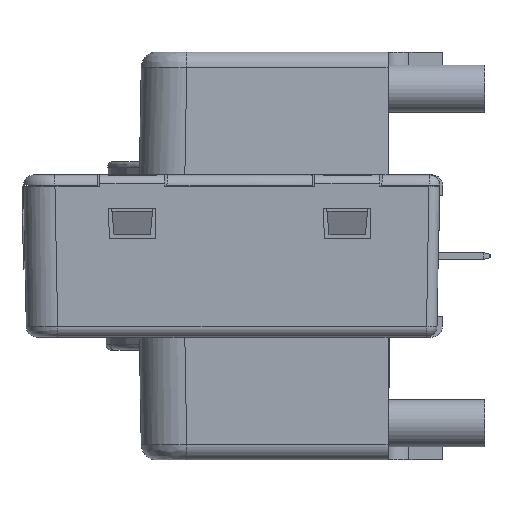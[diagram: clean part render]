
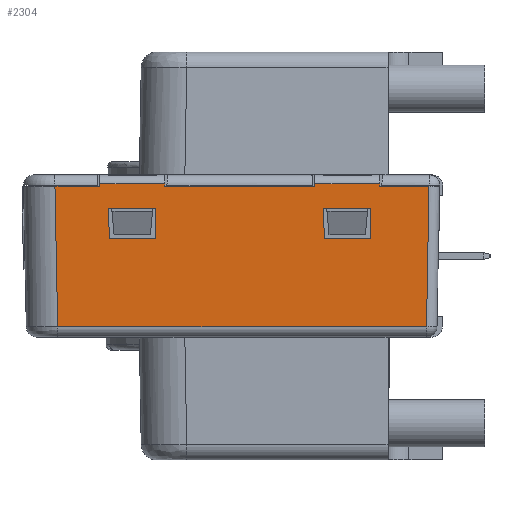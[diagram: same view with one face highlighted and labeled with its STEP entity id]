
A CAD part, left-side view. The second image highlights one B-rep face of the part: STEP entity #2304.
In plain terms, the highlighted planar face has unit normal (-1, 0, -0.019).
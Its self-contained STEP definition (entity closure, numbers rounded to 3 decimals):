
#237=FACE_BOUND('',#5287,.T.);
#238=FACE_BOUND('',#5288,.T.);
#239=FACE_BOUND('',#5289,.T.);
#844=PLANE('',#27774);
#2304=ADVANCED_FACE('',(#237,#238,#239),#844,.T.);
#5287=EDGE_LOOP('',(#15140,#15141,#15142,#15143,#15144,#15145));
#5288=EDGE_LOOP('',(#15146,#15147,#15148,#15149,#15150,#15151));
#5289=EDGE_LOOP('',(#15152,#15153,#15154,#15155,#15156,#15157,#15158,#15159,
#15160,#15161,#15162,#15163));
#7737=LINE('',#42733,#10302);
#7739=LINE('',#42737,#10304);
#7745=LINE('',#42751,#10310);
#7852=LINE('',#43074,#10417);
#7973=LINE('',#43337,#10538);
#8132=LINE('',#43734,#10697);
#8135=LINE('',#43740,#10700);
#8140=LINE('',#43756,#10705);
#8144=LINE('',#43765,#10709);
#8146=LINE('',#43771,#10711);
#8148=LINE('',#43774,#10713);
#8150=LINE('',#43779,#10715);
#8155=LINE('',#43789,#10720);
#8159=LINE('',#43799,#10724);
#8162=LINE('',#43806,#10727);
#8164=LINE('',#43812,#10729);
#8166=LINE('',#43815,#10731);
#8168=LINE('',#43820,#10733);
#8173=LINE('',#43854,#10738);
#8176=LINE('',#43859,#10741);
#8177=LINE('',#43863,#10742);
#8182=LINE('',#43871,#10747);
#8183=LINE('',#43873,#10748);
#8184=LINE('',#43874,#10749);
#10302=VECTOR('',#31548,1.);
#10304=VECTOR('',#31552,1.);
#10310=VECTOR('',#31560,1.);
#10417=VECTOR('',#31787,1.);
#10538=VECTOR('',#31966,1.);
#10697=VECTOR('',#32373,1.);
#10700=VECTOR('',#32378,1.);
#10705=VECTOR('',#32389,1.);
#10709=VECTOR('',#32395,1.);
#10711=VECTOR('',#32401,1.);
#10713=VECTOR('',#32405,1.);
#10715=VECTOR('',#32411,1.);
#10720=VECTOR('',#32420,1.);
#10724=VECTOR('',#32430,1.);
#10727=VECTOR('',#32435,1.);
#10729=VECTOR('',#32441,1.);
#10731=VECTOR('',#32445,1.);
#10733=VECTOR('',#32451,1.);
#10738=VECTOR('',#32466,1.);
#10741=VECTOR('',#32471,1.);
#10742=VECTOR('',#32478,1.);
#10747=VECTOR('',#32487,1.);
#10748=VECTOR('',#32490,1.);
#10749=VECTOR('',#32491,1.);
#15140=ORIENTED_EDGE('',*,*,#24393,.T.);
#15141=ORIENTED_EDGE('',*,*,#24396,.T.);
#15142=ORIENTED_EDGE('',*,*,#24398,.T.);
#15143=ORIENTED_EDGE('',*,*,#23894,.T.);
#15144=ORIENTED_EDGE('',*,*,#24423,.T.);
#15145=ORIENTED_EDGE('',*,*,#23888,.T.);
#15146=ORIENTED_EDGE('',*,*,#23886,.T.);
#15147=ORIENTED_EDGE('',*,*,#24424,.T.);
#15148=ORIENTED_EDGE('',*,*,#24360,.T.);
#15149=ORIENTED_EDGE('',*,*,#24371,.T.);
#15150=ORIENTED_EDGE('',*,*,#24374,.T.);
#15151=ORIENTED_EDGE('',*,*,#24376,.T.);
#15152=ORIENTED_EDGE('',*,*,#24390,.T.);
#15153=ORIENTED_EDGE('',*,*,#24401,.T.);
#15154=ORIENTED_EDGE('',*,*,#24422,.T.);
#15155=ORIENTED_EDGE('',*,*,#24031,.T.);
#15156=ORIENTED_EDGE('',*,*,#24165,.T.);
#15157=ORIENTED_EDGE('',*,*,#24417,.F.);
#15158=ORIENTED_EDGE('',*,*,#24412,.T.);
#15159=ORIENTED_EDGE('',*,*,#24415,.T.);
#15160=ORIENTED_EDGE('',*,*,#24367,.T.);
#15161=ORIENTED_EDGE('',*,*,#24379,.T.);
#15162=ORIENTED_EDGE('',*,*,#24385,.T.);
#15163=ORIENTED_EDGE('',*,*,#24357,.T.);
#20889=VERTEX_POINT('',#42732);
#20890=VERTEX_POINT('',#42734);
#20891=VERTEX_POINT('',#42738);
#20892=VERTEX_POINT('',#42739);
#20897=VERTEX_POINT('',#42750);
#20898=VERTEX_POINT('',#42752);
#20988=VERTEX_POINT('',#43073);
#20989=VERTEX_POINT('',#43075);
#21101=VERTEX_POINT('',#43336);
#21194=VERTEX_POINT('',#43728);
#21197=VERTEX_POINT('',#43733);
#21198=VERTEX_POINT('',#43737);
#21199=VERTEX_POINT('',#43739);
#21205=VERTEX_POINT('',#43755);
#21206=VERTEX_POINT('',#43757);
#21209=VERTEX_POINT('',#43764);
#21210=VERTEX_POINT('',#43769);
#21213=VERTEX_POINT('',#43780);
#21218=VERTEX_POINT('',#43798);
#21221=VERTEX_POINT('',#43805);
#21223=VERTEX_POINT('',#43811);
#21225=VERTEX_POINT('',#43821);
#21229=VERTEX_POINT('',#43851);
#21230=VERTEX_POINT('',#43853);
#23886=EDGE_CURVE('',#20890,#20889,#7737,.T.);
#23888=EDGE_CURVE('',#20891,#20892,#7739,.T.);
#23894=EDGE_CURVE('',#20898,#20897,#7745,.T.);
#24031=EDGE_CURVE('',#20989,#20988,#7852,.T.);
#24165=EDGE_CURVE('',#20988,#21101,#7973,.T.);
#24357=EDGE_CURVE('',#21194,#21197,#8132,.T.);
#24360=EDGE_CURVE('',#21198,#21199,#8135,.T.);
#24367=EDGE_CURVE('',#21206,#21205,#8140,.T.);
#24371=EDGE_CURVE('',#21199,#21209,#8144,.T.);
#24374=EDGE_CURVE('',#21209,#21210,#8146,.T.);
#24376=EDGE_CURVE('',#21210,#20890,#8148,.T.);
#24379=EDGE_CURVE('',#21205,#21213,#8150,.T.);
#24385=EDGE_CURVE('',#21213,#21194,#8155,.T.);
#24390=EDGE_CURVE('',#21197,#21218,#8159,.T.);
#24393=EDGE_CURVE('',#20892,#21221,#8162,.T.);
#24396=EDGE_CURVE('',#21221,#21223,#8164,.T.);
#24398=EDGE_CURVE('',#21223,#20898,#8166,.T.);
#24401=EDGE_CURVE('',#21218,#21225,#8168,.T.);
#24412=EDGE_CURVE('',#21229,#21230,#8173,.T.);
#24415=EDGE_CURVE('',#21230,#21206,#8176,.T.);
#24417=EDGE_CURVE('',#21229,#21101,#8177,.T.);
#24422=EDGE_CURVE('',#21225,#20989,#8182,.T.);
#24423=EDGE_CURVE('',#20897,#20891,#8183,.T.);
#24424=EDGE_CURVE('',#20889,#21198,#8184,.T.);
#27774=AXIS2_PLACEMENT_3D('',#43875,#32492,#32493);
#31548=DIRECTION('',(0.,-1.,0.));
#31552=DIRECTION('',(0.,-1.,0.));
#31560=DIRECTION('',(0.,-1.,0.));
#31787=DIRECTION('',(0.,1.,0.));
#31966=DIRECTION('',(0.019,-0.019,-1.));
#32373=DIRECTION('',(0.,1.,0.));
#32378=DIRECTION('',(0.,-1.,0.));
#32389=DIRECTION('',(-0.019,0.,1.));
#32395=DIRECTION('',(0.019,0.017,-1.));
#32401=DIRECTION('',(0.,1.,0.));
#32405=DIRECTION('',(-0.019,0.017,1.));
#32411=DIRECTION('',(0.,1.,0.));
#32420=DIRECTION('',(0.019,0.,-1.));
#32430=DIRECTION('',(-0.019,0.,1.));
#32435=DIRECTION('',(0.019,0.017,-1.));
#32441=DIRECTION('',(0.,1.,0.));
#32445=DIRECTION('',(-0.019,0.017,1.));
#32451=DIRECTION('',(0.,1.,0.));
#32466=DIRECTION('',(-0.019,-0.017,1.));
#32471=DIRECTION('',(0.,1.,0.));
#32478=DIRECTION('',(0.,1.,0.));
#32487=DIRECTION('',(0.019,0.,-1.));
#32490=DIRECTION('',(0.,-1.,0.));
#32491=DIRECTION('',(0.,-1.,0.));
#32492=DIRECTION('',(-1.,0.,-0.019));
#32493=DIRECTION('',(0.019,0.,-1.));
#42732=CARTESIAN_POINT('',(-226.445,-17.252,-76.775));
#42733=CARTESIAN_POINT('',(-226.445,-4.333,-76.775));
#42734=CARTESIAN_POINT('',(-226.445,-16.963,-76.775));
#42737=CARTESIAN_POINT('',(-226.445,-4.333,-76.775));
#42738=CARTESIAN_POINT('',(-226.445,-0.626,-76.775));
#42739=CARTESIAN_POINT('',(-226.445,-0.915,-76.775));
#42750=CARTESIAN_POINT('',(-226.445,3.298,-76.775));
#42751=CARTESIAN_POINT('',(-226.445,-4.333,-76.775));
#42752=CARTESIAN_POINT('',(-226.445,3.587,-76.775));
#43073=CARTESIAN_POINT('',(-226.486,8.723,-74.675));
#43074=CARTESIAN_POINT('',(-226.486,-27.474,-74.675));
#43075=CARTESIAN_POINT('',(-226.486,4.436,-74.675));
#43336=CARTESIAN_POINT('',(-226.226,8.463,-88.094));
#43337=CARTESIAN_POINT('',(-226.497,8.733,-74.13));
#43728=CARTESIAN_POINT('',(-226.486,-16.114,-74.675));
#43733=CARTESIAN_POINT('',(-226.486,-1.764,-74.675));
#43734=CARTESIAN_POINT('',(-226.486,-26.874,-74.675));
#43737=CARTESIAN_POINT('',(-226.445,-21.176,-76.775));
#43739=CARTESIAN_POINT('',(-226.445,-21.465,-76.775));
#43740=CARTESIAN_POINT('',(-226.445,-4.333,-76.775));
#43755=CARTESIAN_POINT('',(-226.491,-22.314,-74.438));
#43756=CARTESIAN_POINT('',(-226.461,-22.314,-75.97));
#43757=CARTESIAN_POINT('',(-226.486,-22.314,-74.675));
#43764=CARTESIAN_POINT('',(-226.389,-21.414,-79.675));
#43765=CARTESIAN_POINT('',(-226.496,-21.51,-74.177));
#43769=CARTESIAN_POINT('',(-226.389,-17.014,-79.675));
#43771=CARTESIAN_POINT('',(-226.389,-4.333,-79.675));
#43774=CARTESIAN_POINT('',(-226.506,-16.909,-73.658));
#43779=CARTESIAN_POINT('',(-226.491,-22.314,-74.438));
#43780=CARTESIAN_POINT('',(-226.491,-16.114,-74.438));
#43789=CARTESIAN_POINT('',(-226.501,-16.114,-73.877));
#43798=CARTESIAN_POINT('',(-226.491,-1.764,-74.438));
#43799=CARTESIAN_POINT('',(-226.501,-1.764,-73.877));
#43805=CARTESIAN_POINT('',(-226.389,-0.864,-79.675));
#43806=CARTESIAN_POINT('',(-226.503,-0.966,-73.818));
#43811=CARTESIAN_POINT('',(-226.389,3.536,-79.675));
#43812=CARTESIAN_POINT('',(-226.389,-4.333,-79.675));
#43815=CARTESIAN_POINT('',(-226.499,3.635,-74.016));
#43820=CARTESIAN_POINT('',(-226.491,-1.764,-74.438));
#43821=CARTESIAN_POINT('',(-226.491,4.436,-74.438));
#43851=CARTESIAN_POINT('',(-226.226,-26.797,-88.094));
#43853=CARTESIAN_POINT('',(-226.486,-27.031,-74.675));
#43854=CARTESIAN_POINT('',(-226.494,-27.038,-74.273));
#43859=CARTESIAN_POINT('',(-226.486,-26.874,-74.675));
#43863=CARTESIAN_POINT('',(-226.226,-7.414,-88.094));
#43871=CARTESIAN_POINT('',(-226.501,4.436,-73.877));
#43873=CARTESIAN_POINT('',(-226.445,-4.333,-76.775));
#43874=CARTESIAN_POINT('',(-226.445,-4.333,-76.775));
#43875=CARTESIAN_POINT('',(-226.501,-4.333,-73.877));
